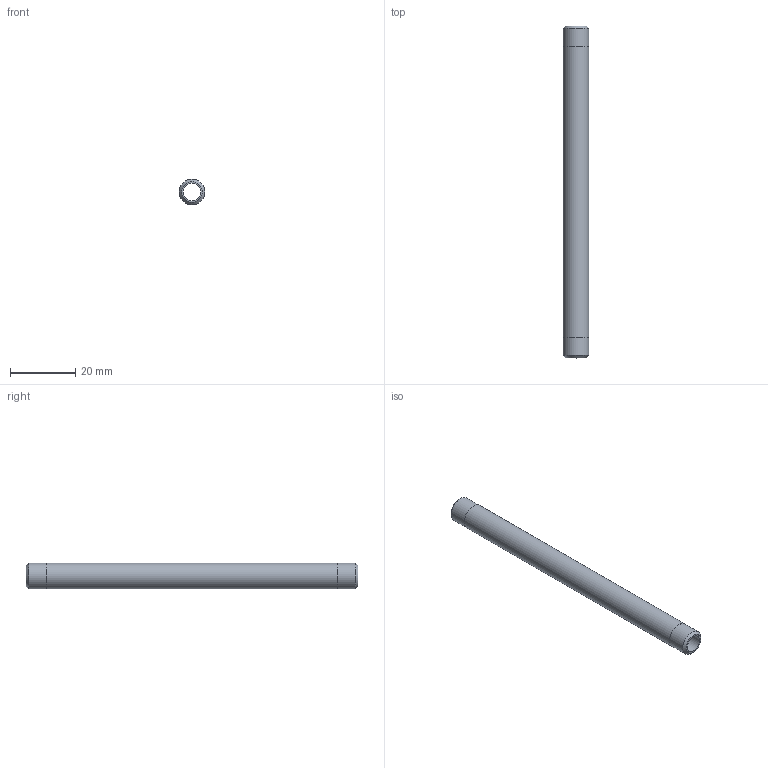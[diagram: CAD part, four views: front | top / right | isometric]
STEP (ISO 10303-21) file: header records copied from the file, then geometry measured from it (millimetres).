
FILE_DESCRIPTION(/* description */ (''),/* implementation_level */ '2;1');
FILE_NAME(/* name */ 'C:/Users/drich/Desktop/SSPN16-4 v1.step',/* time_stamp */ '2020-01-04T13:22:43-06:00',/* author */ (''),/* organization */ (''),/* preprocessor_version */ 'ST-DEVELOPER v18',/* originating_system */ 'Autodesk Translation Framework v8.12.0.6',/* authorisation */ '');
FILE_SCHEMA (('AUTOMOTIVE_DESIGN { 1 0 10303 214 3 1 1 }'));
Length unit declared in the file: inch
Products named in the file (1): SSPN16-4
Bounding box: 7.92 x 101.6 x 7.92 mm (x, y, z)
Volume: 2741.2 mm3; surface area: 4252.7 mm2
Topology: 1 solids, 1 shells, 10 faces, 24 edges, 18 vertices
Faces by surface type: cylinder 4, plane 4, cone 2
Full cylindrical faces by diameter (mm): 5.309 x1, 7.874 x2, 7.925 x1
Entity records: 353 total; most frequent: DIRECTION 64, CARTESIAN_POINT 53, ORIENTED_EDGE 48, AXIS2_PLACEMENT_3D 29, EDGE_CURVE 24, CIRCLE 18, VERTEX_POINT 18, EDGE_LOOP 14
